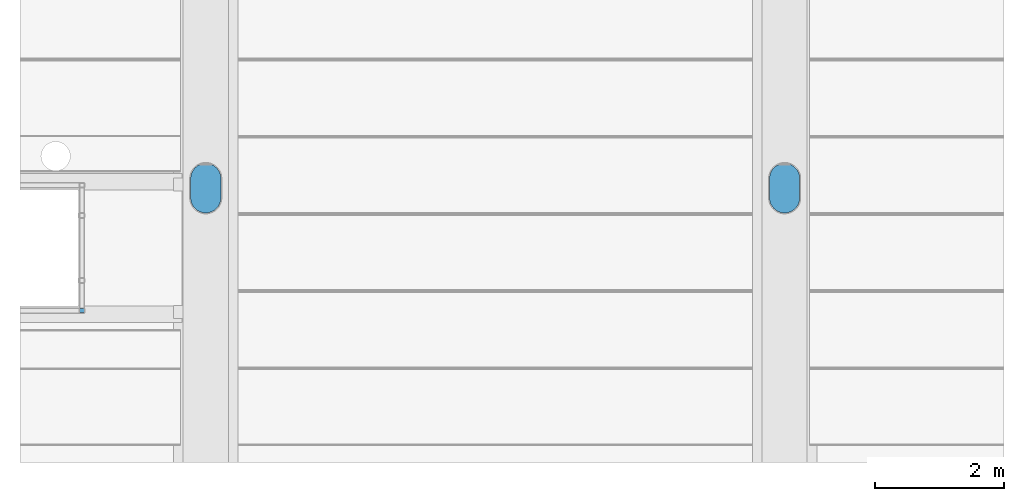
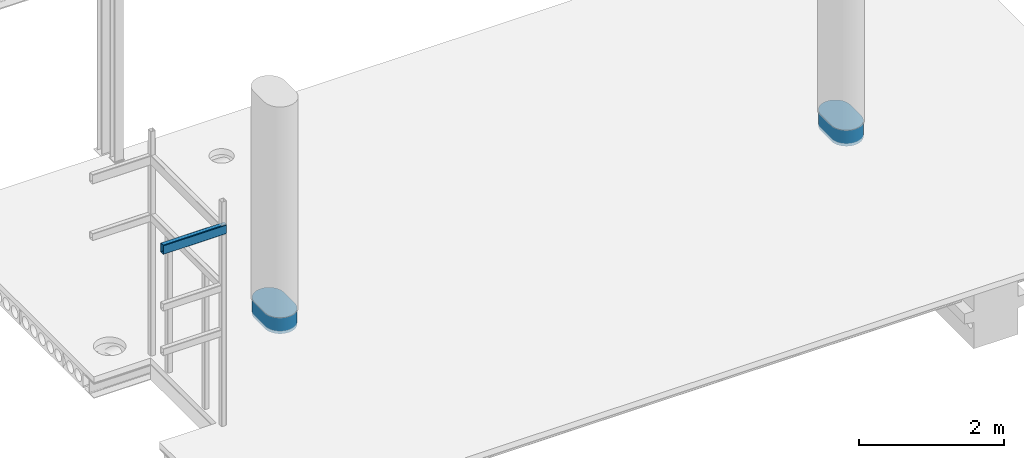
# One storey, part 19 of 34: 2 columns, 1 beam.
"""IFC2X3 building model written with IfcOpenShell, lengths in millimetres."""

from ifc_helpers import new_model, entity, si_unit, converted_unit, derived_unit, direction, frame, origin_with_axes, place, context, subcontext, project, spatial, faceted_brep, material, type_object, element, save


model = new_model("IFC2X3")

# Units and contexts
model_context = context("Model", 3, precision=0.01, world=frame((0.0, 4.29681676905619e-09, 0.0)), true_north=direction((4.01073788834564e-13, 1.0)))
plan_context = context("Plan", 3, precision=0.01, world=frame((0.0, 4.29681676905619e-09, 0.0)), true_north=direction((4.01073788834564e-13, 1.0)))
body_context = subcontext(model_context, "Body", "Model", "MODEL_VIEW")
ifc_project = project(units=[converted_unit("PLANEANGLEUNIT", "DEGREE", entity("IfcPositiveLengthMeasure", 0.0174532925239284), si_unit("PLANEANGLEUNIT", "RADIAN"), dimensions=[0, 0, 0, 0, 0, 0, 0]), si_unit("AREAUNIT", "SQUARE_METRE"), si_unit("LENGTHUNIT", "METRE", prefix="MILLI"), si_unit("MASSUNIT", "GRAM", prefix="KILO"), si_unit("POWERUNIT", "WATT"), si_unit("PRESSUREUNIT", "PASCAL"), si_unit("FORCEUNIT", "NEWTON", prefix="KILO"), si_unit("ELECTRICVOLTAGEUNIT", "VOLT"), si_unit("ELECTRICCURRENTUNIT", "AMPERE"), si_unit("THERMODYNAMICTEMPERATUREUNIT", "DEGREE_CELSIUS"), si_unit("TIMEUNIT", "SECOND"), si_unit("VOLUMEUNIT", "CUBIC_METRE"), derived_unit("LINEARVELOCITYUNIT", [(si_unit("LENGTHUNIT", "METRE"), 1), (si_unit("TIMEUNIT", "SECOND"), -1)]), derived_unit("VOLUMETRICFLOWRATEUNIT", [(si_unit("VOLUMEUNIT", "CUBIC_METRE"), 1), (si_unit("TIMEUNIT", "SECOND"), -1)]), derived_unit("THERMALTRANSMITTANCEUNIT", [(si_unit("POWERUNIT", "WATT"), 1), (si_unit("THERMODYNAMICTEMPERATUREUNIT", "KELVIN"), -1), (si_unit("AREAUNIT", "SQUARE_METRE"), -1)]), derived_unit("SOUNDPRESSUREUNIT", [(si_unit("PRESSUREUNIT", "PASCAL"), 1)])], contexts=[model_context, plan_context])

# Site, building, storey
site_placement = place(None, frame((0.0, -4.29681676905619e-09, 0.0), z_axis=(0.0, 0.0, 1.0), x_axis=(1.0, 0.0, 0.0)))
site = spatial("IfcSite", under=ifc_project, at=site_placement, Name="Gardermoen", CompositionType="ELEMENT")
building_placement = place(site_placement, frame((0.0, 4.29681676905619e-09, 0.0), z_axis=(0.0, 0.0, 1.0), x_axis=(1.0, 0.0, 0.0)))
building = spatial("IfcBuilding", under=site, at=building_placement, Name="TH", CompositionType="ELEMENT")
storey_placement = place(building_placement, origin_with_axes())
storey = spatial("IfcBuildingStorey", under=building, at=storey_placement, Name="F", CompositionType="ELEMENT", Elevation=0.0)

# Columns
ifc_material = material(Name="CONCRETE/C45/55")
column_type = type_object("IfcColumnType", Name="AAJOVAL470*770", PredefinedType="NOTDEFINED")
column_1_placement = place(storey_placement, frame((897999.999531, 480299.995625, 210080.0), z_axis=(0.0, 0.0, 1.0), x_axis=(0.0, 1.0, 0.0)))
element("IfcColumn", 1, at=column_1_placement, inside=storey, type_object=column_type, material=ifc_material, Name="PREFABSØYLE", ObjectType="AAJOVAL470*770", context=body_context, shape_type="Brep", body=[
    faceted_brep([(150.0, -235.0, 0.0), (169.929392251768, -234.153409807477, 0.0), (169.929392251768, -234.153409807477, 270.0), (150.0, -235.0, 270.0), (189.715192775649, -231.619738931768, 0.0), (189.715192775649, -231.619738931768, 270.0), (209.2148444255, -227.417242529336, 0.0), (209.2148444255, -227.417242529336, 270.0), (228.287851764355, -221.576199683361, 0.0), (228.287851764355, -221.576199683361, 270.0), (246.796793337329, -214.138695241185, 0.0), (246.796793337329, -214.138695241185, 270.0), (264.608311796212, -205.158316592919, 0.0), (264.608311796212, -205.158316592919, 270.0), (281.594074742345, -194.69976757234, 0.0), (281.594074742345, -194.69976757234, 270.0), (297.631699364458, -182.838402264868, 0.0), (297.631699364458, -182.838402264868, 270.0), (312.6056342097, -169.659682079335, 0.0), (312.6056342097, -169.659682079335, 270.0), (326.407991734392, -155.258559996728, 0.0), (326.407991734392, -155.258559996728, 270.0), (338.939325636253, -139.738796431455, 0.0), (338.939325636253, -139.738796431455, 270.0), (350.10934736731, -123.212211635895, 0.0), (350.10934736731, -123.212211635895, 270.0), (359.837576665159, -105.7978800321, 0.0), (359.837576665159, -105.7978800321, 270.0), (368.053921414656, -87.6212722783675, 0.0), (368.053921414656, -87.6212722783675, 270.0), (374.699182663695, -68.8133512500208, 0.0), (374.699182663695, -68.8133512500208, 270.0), (379.725481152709, -49.5096284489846, 0.0), (379.725481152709, -49.5096284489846, 270.0), (383.096602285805, -29.8491876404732, 0.0), (383.096602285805, -29.8491876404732, 270.0), (384.78825705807, -9.97368275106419, 0.0), (384.78825705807, -9.97368275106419, 270.0), (384.78825705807, 9.97368275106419, 0.0), (384.78825705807, 9.97368275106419, 270.0), (383.096602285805, 29.8491876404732, 0.0), (383.096602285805, 29.8491876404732, 270.0), (379.725481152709, 49.5096284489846, 0.0), (379.725481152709, 49.5096284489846, 270.0), (374.699182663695, 68.8133512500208, 0.0), (374.699182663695, 68.8133512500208, 270.0), (368.053921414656, 87.6212722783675, 0.0), (368.053921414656, 87.6212722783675, 270.0), (359.837576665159, 105.7978800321, 0.0), (359.837576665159, 105.7978800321, 270.0), (350.10934736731, 123.212211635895, 0.0), (350.10934736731, 123.212211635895, 270.0), (338.939325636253, 139.738796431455, 0.0), (338.939325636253, 139.738796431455, 270.0), (326.407991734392, 155.258559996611, 0.0), (326.407991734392, 155.258559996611, 270.0), (312.6056342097, 169.659682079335, 0.0), (312.6056342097, 169.659682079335, 270.0), (297.631699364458, 182.838402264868, 0.0), (297.631699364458, 182.838402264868, 270.0), (281.594074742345, 194.69976757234, 0.0), (281.594074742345, 194.69976757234, 270.0), (264.608311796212, 205.158316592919, 0.0), (264.608311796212, 205.158316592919, 270.0), (246.796793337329, 214.138695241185, 0.0), (246.796793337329, 214.138695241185, 270.0), (228.287851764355, 221.576199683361, 0.0), (228.287851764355, 221.576199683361, 270.0), (209.2148444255, 227.417242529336, 0.0), (209.2148444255, 227.417242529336, 270.0), (189.715192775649, 231.619738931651, 0.0), (189.715192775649, 231.619738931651, 270.0), (169.929392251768, 234.153409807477, 0.0), (169.929392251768, 234.153409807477, 270.0), (150.0, 235.0, 0.0), (150.0, 235.0, 270.0), (-150.0, 235.0, 0.0), (-150.0, 235.0, 270.0), (-169.929392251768, 234.153409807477, 0.0), (-169.929392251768, 234.153409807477, 270.0), (-189.715192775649, 231.619738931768, 0.0), (-189.715192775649, 231.619738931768, 270.0), (-209.2148444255, 227.417242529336, 0.0), (-209.2148444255, 227.417242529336, 270.0), (-228.287851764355, 221.576199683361, 0.0), (-228.287851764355, 221.576199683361, 270.0), (-246.796793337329, 214.138695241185, 0.0), (-246.796793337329, 214.138695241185, 270.0), (-264.608311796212, 205.158316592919, 0.0), (-264.608311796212, 205.158316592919, 270.0), (-281.594074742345, 194.69976757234, 0.0), (-281.594074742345, 194.69976757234, 270.0), (-297.631699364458, 182.838402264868, 0.0), (-297.631699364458, 182.838402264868, 270.0), (-312.6056342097, 169.659682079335, 0.0), (-312.6056342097, 169.659682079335, 270.0), (-326.407991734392, 155.258559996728, 0.0), (-326.407991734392, 155.258559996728, 270.0), (-338.939325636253, 139.738796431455, 0.0), (-338.939325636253, 139.738796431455, 270.0), (-350.10934736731, 123.212211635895, 0.0), (-350.10934736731, 123.212211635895, 270.0), (-359.837576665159, 105.7978800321, 0.0), (-359.837576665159, 105.7978800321, 270.0), (-368.053921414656, 87.6212722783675, 0.0), (-368.053921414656, 87.6212722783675, 270.0), (-374.699182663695, 68.8133512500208, 0.0), (-374.699182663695, 68.8133512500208, 270.0), (-379.725481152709, 49.5096284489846, 0.0), (-379.725481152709, 49.5096284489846, 270.0), (-383.096602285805, 29.8491876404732, 0.0), (-383.096602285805, 29.8491876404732, 270.0), (-384.78825705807, 9.97368275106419, 0.0), (-384.78825705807, 9.97368275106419, 270.0), (-384.78825705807, -9.97368275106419, 0.0), (-384.78825705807, -9.97368275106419, 270.0), (-383.096602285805, -29.8491876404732, 0.0), (-383.096602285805, -29.8491876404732, 270.0), (-379.725481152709, -49.5096284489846, 0.0), (-379.725481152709, -49.5096284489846, 270.0), (-374.699182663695, -68.8133512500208, 0.0), (-374.699182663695, -68.8133512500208, 270.0), (-368.053921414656, -87.6212722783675, 0.0), (-368.053921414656, -87.6212722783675, 270.0), (-359.837576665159, -105.7978800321, 0.0), (-359.837576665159, -105.7978800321, 270.0), (-350.10934736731, -123.212211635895, 0.0), (-350.10934736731, -123.212211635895, 270.0), (-338.939325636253, -139.738796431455, 0.0), (-338.939325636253, -139.738796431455, 270.0), (-326.407991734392, -155.258559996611, 0.0), (-326.407991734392, -155.258559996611, 270.0), (-312.6056342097, -169.659682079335, 0.0), (-312.6056342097, -169.659682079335, 270.0), (-297.631699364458, -182.838402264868, 0.0), (-297.631699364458, -182.838402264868, 270.0), (-281.594074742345, -194.69976757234, 0.0), (-281.594074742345, -194.69976757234, 270.0), (-264.608311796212, -205.158316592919, 0.0), (-264.608311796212, -205.158316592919, 270.0), (-246.796793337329, -214.138695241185, 0.0), (-246.796793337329, -214.138695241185, 270.0), (-228.287851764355, -221.576199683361, 0.0), (-228.287851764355, -221.576199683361, 270.0), (-209.2148444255, -227.417242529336, 0.0), (-209.2148444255, -227.417242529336, 270.0), (-189.715192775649, -231.619738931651, 0.0), (-189.715192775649, -231.619738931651, 270.0), (-169.929392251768, -234.153409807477, 0.0), (-169.929392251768, -234.153409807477, 270.0), (-150.0, -235.0, 0.0), (-150.0, -235.0, 270.0)], [[[0, 1, 2, 3]], [[1, 4, 5, 2]], [[4, 6, 7, 5]], [[6, 8, 9, 7]], [[8, 10, 11, 9]], [[10, 12, 13, 11]], [[12, 14, 15, 13]], [[14, 16, 17, 15]], [[16, 18, 19, 17]], [[18, 20, 21, 19]], [[20, 22, 23, 21]], [[22, 24, 25, 23]], [[24, 26, 27, 25]], [[26, 28, 29, 27]], [[28, 30, 31, 29]], [[30, 32, 33, 31]], [[32, 34, 35, 33]], [[34, 36, 37, 35]], [[36, 38, 39, 37]], [[38, 40, 41, 39]], [[40, 42, 43, 41]], [[42, 44, 45, 43]], [[44, 46, 47, 45]], [[46, 48, 49, 47]], [[48, 50, 51, 49]], [[50, 52, 53, 51]], [[52, 54, 55, 53]], [[54, 56, 57, 55]], [[56, 58, 59, 57]], [[58, 60, 61, 59]], [[60, 62, 63, 61]], [[62, 64, 65, 63]], [[64, 66, 67, 65]], [[66, 68, 69, 67]], [[68, 70, 71, 69]], [[70, 72, 73, 71]], [[72, 74, 75, 73]], [[74, 76, 77, 75]], [[76, 78, 79, 77]], [[78, 80, 81, 79]], [[80, 82, 83, 81]], [[82, 84, 85, 83]], [[84, 86, 87, 85]], [[86, 88, 89, 87]], [[88, 90, 91, 89]], [[90, 92, 93, 91]], [[92, 94, 95, 93]], [[94, 96, 97, 95]], [[96, 98, 99, 97]], [[98, 100, 101, 99]], [[100, 102, 103, 101]], [[102, 104, 105, 103]], [[104, 106, 107, 105]], [[106, 108, 109, 107]], [[108, 110, 111, 109]], [[110, 112, 113, 111]], [[112, 114, 115, 113]], [[114, 116, 117, 115]], [[116, 118, 119, 117]], [[118, 120, 121, 119]], [[120, 122, 123, 121]], [[122, 124, 125, 123]], [[124, 126, 127, 125]], [[126, 128, 129, 127]], [[128, 130, 131, 129]], [[130, 132, 133, 131]], [[132, 134, 135, 133]], [[134, 136, 137, 135]], [[136, 138, 139, 137]], [[138, 140, 141, 139]], [[140, 142, 143, 141]], [[142, 144, 145, 143]], [[144, 146, 147, 145]], [[146, 148, 149, 147]], [[148, 150, 151, 149]], [[150, 0, 3, 151]], [[5, 7, 9, 11, 13, 15, 17, 19, 21, 23, 25, 27, 29, 31, 33, 35, 37, 39, 41, 43, 45, 47, 49, 51, 53, 55, 57, 59, 61, 63, 65, 67, 69, 71, 73, 75, 77, 79, 81, 83, 85, 87, 89, 91, 93, 95, 97, 99, 101, 103, 105, 107, 109, 111, 113, 115, 117, 119, 121, 123, 125, 127, 129, 131, 133, 135, 137, 139, 141, 143, 145, 147, 149, 151, 3, 2]], [[150, 148, 146, 144, 142, 140, 138, 136, 134, 132, 130, 128, 126, 124, 122, 120, 118, 116, 114, 112, 110, 108, 106, 104, 102, 100, 98, 96, 94, 92, 90, 88, 86, 84, 82, 80, 78, 76, 74, 72, 70, 68, 66, 64, 62, 60, 58, 56, 54, 52, 50, 48, 46, 44, 42, 40, 38, 36, 34, 32, 30, 28, 26, 24, 22, 20, 18, 16, 14, 12, 10, 8, 6, 4, 1, 0]]]),
])
column_2_placement = place(storey_placement, frame((906999.999531, 480299.995625, 210080.0), z_axis=(0.0, 0.0, 1.0), x_axis=(0.0, 1.0, 0.0)))
element("IfcColumn", 2, at=column_2_placement, inside=storey, type_object=column_type, material=ifc_material, Name="PREFABSØYLE", ObjectType="AAJOVAL470*770", context=body_context, shape_type="Brep", body=[
    faceted_brep([(150.0, -235.0, 0.0), (169.929392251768, -234.153409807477, 0.0), (169.929392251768, -234.153409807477, 270.0), (150.0, -235.0, 270.0), (189.715192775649, -231.619738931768, 0.0), (189.715192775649, -231.619738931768, 270.0), (209.2148444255, -227.417242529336, 0.0), (209.2148444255, -227.417242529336, 270.0), (228.287851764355, -221.576199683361, 0.0), (228.287851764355, -221.576199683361, 270.0), (246.796793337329, -214.138695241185, 0.0), (246.796793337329, -214.138695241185, 270.0), (264.608311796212, -205.158316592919, 0.0), (264.608311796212, -205.158316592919, 270.0), (281.594074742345, -194.69976757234, 0.0), (281.594074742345, -194.69976757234, 270.0), (297.631699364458, -182.838402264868, 0.0), (297.631699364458, -182.838402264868, 270.0), (312.6056342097, -169.659682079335, 0.0), (312.6056342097, -169.659682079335, 270.0), (326.407991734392, -155.258559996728, 0.0), (326.407991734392, -155.258559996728, 270.0), (338.939325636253, -139.738796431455, 0.0), (338.939325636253, -139.738796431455, 270.0), (350.10934736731, -123.212211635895, 0.0), (350.10934736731, -123.212211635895, 270.0), (359.837576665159, -105.7978800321, 0.0), (359.837576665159, -105.7978800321, 270.0), (368.053921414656, -87.6212722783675, 0.0), (368.053921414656, -87.6212722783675, 270.0), (374.699182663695, -68.8133512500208, 0.0), (374.699182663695, -68.8133512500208, 270.0), (379.725481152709, -49.5096284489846, 0.0), (379.725481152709, -49.5096284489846, 270.0), (383.096602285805, -29.8491876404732, 0.0), (383.096602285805, -29.8491876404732, 270.0), (384.78825705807, -9.97368275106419, 0.0), (384.78825705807, -9.97368275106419, 270.0), (384.78825705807, 9.97368275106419, 0.0), (384.78825705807, 9.97368275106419, 270.0), (383.096602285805, 29.8491876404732, 0.0), (383.096602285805, 29.8491876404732, 270.0), (379.725481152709, 49.5096284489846, 0.0), (379.725481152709, 49.5096284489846, 270.0), (374.699182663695, 68.8133512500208, 0.0), (374.699182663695, 68.8133512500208, 270.0), (368.053921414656, 87.6212722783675, 0.0), (368.053921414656, 87.6212722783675, 270.0), (359.837576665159, 105.7978800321, 0.0), (359.837576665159, 105.7978800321, 270.0), (350.10934736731, 123.212211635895, 0.0), (350.10934736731, 123.212211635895, 270.0), (338.939325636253, 139.738796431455, 0.0), (338.939325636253, 139.738796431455, 270.0), (326.407991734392, 155.258559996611, 0.0), (326.407991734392, 155.258559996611, 270.0), (312.6056342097, 169.659682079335, 0.0), (312.6056342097, 169.659682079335, 270.0), (297.631699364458, 182.838402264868, 0.0), (297.631699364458, 182.838402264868, 270.0), (281.594074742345, 194.69976757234, 0.0), (281.594074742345, 194.69976757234, 270.0), (264.608311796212, 205.158316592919, 0.0), (264.608311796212, 205.158316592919, 270.0), (246.796793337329, 214.138695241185, 0.0), (246.796793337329, 214.138695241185, 270.0), (228.287851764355, 221.576199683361, 0.0), (228.287851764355, 221.576199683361, 270.0), (209.2148444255, 227.417242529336, 0.0), (209.2148444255, 227.417242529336, 270.0), (189.715192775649, 231.619738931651, 0.0), (189.715192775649, 231.619738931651, 270.0), (169.929392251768, 234.153409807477, 0.0), (169.929392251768, 234.153409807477, 270.0), (150.0, 235.0, 0.0), (150.0, 235.0, 270.0), (-150.0, 235.0, 0.0), (-150.0, 235.0, 270.0), (-169.929392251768, 234.153409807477, 0.0), (-169.929392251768, 234.153409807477, 270.0), (-189.715192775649, 231.619738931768, 0.0), (-189.715192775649, 231.619738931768, 270.0), (-209.2148444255, 227.417242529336, 0.0), (-209.2148444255, 227.417242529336, 270.0), (-228.287851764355, 221.576199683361, 0.0), (-228.287851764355, 221.576199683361, 270.0), (-246.796793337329, 214.138695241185, 0.0), (-246.796793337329, 214.138695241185, 270.0), (-264.608311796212, 205.158316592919, 0.0), (-264.608311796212, 205.158316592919, 270.0), (-281.594074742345, 194.69976757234, 0.0), (-281.594074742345, 194.69976757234, 270.0), (-297.631699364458, 182.838402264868, 0.0), (-297.631699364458, 182.838402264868, 270.0), (-312.6056342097, 169.659682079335, 0.0), (-312.6056342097, 169.659682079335, 270.0), (-326.407991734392, 155.258559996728, 0.0), (-326.407991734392, 155.258559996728, 270.0), (-338.939325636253, 139.738796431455, 0.0), (-338.939325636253, 139.738796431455, 270.0), (-350.10934736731, 123.212211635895, 0.0), (-350.10934736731, 123.212211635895, 270.0), (-359.837576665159, 105.7978800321, 0.0), (-359.837576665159, 105.7978800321, 270.0), (-368.053921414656, 87.6212722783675, 0.0), (-368.053921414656, 87.6212722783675, 270.0), (-374.699182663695, 68.8133512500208, 0.0), (-374.699182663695, 68.8133512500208, 270.0), (-379.725481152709, 49.5096284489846, 0.0), (-379.725481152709, 49.5096284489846, 270.0), (-383.096602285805, 29.8491876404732, 0.0), (-383.096602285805, 29.8491876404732, 270.0), (-384.78825705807, 9.97368275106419, 0.0), (-384.78825705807, 9.97368275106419, 270.0), (-384.78825705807, -9.97368275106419, 0.0), (-384.78825705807, -9.97368275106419, 270.0), (-383.096602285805, -29.8491876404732, 0.0), (-383.096602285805, -29.8491876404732, 270.0), (-379.725481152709, -49.5096284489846, 0.0), (-379.725481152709, -49.5096284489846, 270.0), (-374.699182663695, -68.8133512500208, 0.0), (-374.699182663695, -68.8133512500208, 270.0), (-368.053921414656, -87.6212722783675, 0.0), (-368.053921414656, -87.6212722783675, 270.0), (-359.837576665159, -105.7978800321, 0.0), (-359.837576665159, -105.7978800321, 270.0), (-350.10934736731, -123.212211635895, 0.0), (-350.10934736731, -123.212211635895, 270.0), (-338.939325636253, -139.738796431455, 0.0), (-338.939325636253, -139.738796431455, 270.0), (-326.407991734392, -155.258559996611, 0.0), (-326.407991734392, -155.258559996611, 270.0), (-312.6056342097, -169.659682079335, 0.0), (-312.6056342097, -169.659682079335, 270.0), (-297.631699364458, -182.838402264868, 0.0), (-297.631699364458, -182.838402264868, 270.0), (-281.594074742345, -194.69976757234, 0.0), (-281.594074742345, -194.69976757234, 270.0), (-264.608311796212, -205.158316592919, 0.0), (-264.608311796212, -205.158316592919, 270.0), (-246.796793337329, -214.138695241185, 0.0), (-246.796793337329, -214.138695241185, 270.0), (-228.287851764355, -221.576199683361, 0.0), (-228.287851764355, -221.576199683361, 270.0), (-209.2148444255, -227.417242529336, 0.0), (-209.2148444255, -227.417242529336, 270.0), (-189.715192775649, -231.619738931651, 0.0), (-189.715192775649, -231.619738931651, 270.0), (-169.929392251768, -234.153409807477, 0.0), (-169.929392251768, -234.153409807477, 270.0), (-150.0, -235.0, 0.0), (-150.0, -235.0, 270.0)], [[[0, 1, 2, 3]], [[1, 4, 5, 2]], [[4, 6, 7, 5]], [[6, 8, 9, 7]], [[8, 10, 11, 9]], [[10, 12, 13, 11]], [[12, 14, 15, 13]], [[14, 16, 17, 15]], [[16, 18, 19, 17]], [[18, 20, 21, 19]], [[20, 22, 23, 21]], [[22, 24, 25, 23]], [[24, 26, 27, 25]], [[26, 28, 29, 27]], [[28, 30, 31, 29]], [[30, 32, 33, 31]], [[32, 34, 35, 33]], [[34, 36, 37, 35]], [[36, 38, 39, 37]], [[38, 40, 41, 39]], [[40, 42, 43, 41]], [[42, 44, 45, 43]], [[44, 46, 47, 45]], [[46, 48, 49, 47]], [[48, 50, 51, 49]], [[50, 52, 53, 51]], [[52, 54, 55, 53]], [[54, 56, 57, 55]], [[56, 58, 59, 57]], [[58, 60, 61, 59]], [[60, 62, 63, 61]], [[62, 64, 65, 63]], [[64, 66, 67, 65]], [[66, 68, 69, 67]], [[68, 70, 71, 69]], [[70, 72, 73, 71]], [[72, 74, 75, 73]], [[74, 76, 77, 75]], [[76, 78, 79, 77]], [[78, 80, 81, 79]], [[80, 82, 83, 81]], [[82, 84, 85, 83]], [[84, 86, 87, 85]], [[86, 88, 89, 87]], [[88, 90, 91, 89]], [[90, 92, 93, 91]], [[92, 94, 95, 93]], [[94, 96, 97, 95]], [[96, 98, 99, 97]], [[98, 100, 101, 99]], [[100, 102, 103, 101]], [[102, 104, 105, 103]], [[104, 106, 107, 105]], [[106, 108, 109, 107]], [[108, 110, 111, 109]], [[110, 112, 113, 111]], [[112, 114, 115, 113]], [[114, 116, 117, 115]], [[116, 118, 119, 117]], [[118, 120, 121, 119]], [[120, 122, 123, 121]], [[122, 124, 125, 123]], [[124, 126, 127, 125]], [[126, 128, 129, 127]], [[128, 130, 131, 129]], [[130, 132, 133, 131]], [[132, 134, 135, 133]], [[134, 136, 137, 135]], [[136, 138, 139, 137]], [[138, 140, 141, 139]], [[140, 142, 143, 141]], [[142, 144, 145, 143]], [[144, 146, 147, 145]], [[146, 148, 149, 147]], [[148, 150, 151, 149]], [[150, 0, 3, 151]], [[5, 7, 9, 11, 13, 15, 17, 19, 21, 23, 25, 27, 29, 31, 33, 35, 37, 39, 41, 43, 45, 47, 49, 51, 53, 55, 57, 59, 61, 63, 65, 67, 69, 71, 73, 75, 77, 79, 81, 83, 85, 87, 89, 91, 93, 95, 97, 99, 101, 103, 105, 107, 109, 111, 113, 115, 117, 119, 121, 123, 125, 127, 129, 131, 133, 135, 137, 139, 141, 143, 145, 147, 149, 151, 3, 2]], [[150, 148, 146, 144, 142, 140, 138, 136, 134, 132, 130, 128, 126, 124, 122, 120, 118, 116, 114, 112, 110, 108, 106, 104, 102, 100, 98, 96, 94, 92, 90, 88, 86, 84, 82, 80, 78, 76, 74, 72, 70, 68, 66, 64, 62, 60, 58, 56, 54, 52, 50, 48, 46, 44, 42, 40, 38, 36, 34, 32, 30, 28, 26, 24, 22, 20, 18, 16, 14, 12, 10, 8, 6, 4, 1, 0]]]),
])

# Beam
beam_type = type_object("IfcBeamType", Name="RHS160*80*6.3", PredefinedType="NOTDEFINED")
beam_placement = place(storey_placement, frame((890884.999766, 478395.0, 213420.0), z_axis=(0.0, 0.0, 1.0), x_axis=(1.0, 0.0, 0.0)))
element("IfcBeam", 3, at=beam_placement, inside=storey, type_object=beam_type, Name="STÅLBJELKE", ObjectType="RHS160*80*6.3", context=body_context, shape_type="Brep", body=[
    faceted_brep([(4226.90640257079, -24.19999981, -73.699999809), (4226.90640257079, 24.19999981, -73.699999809), (5230.0, 24.19999981, -73.699999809), (5230.0, -24.19999981, -73.699999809), (4226.90640257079, 26.0533578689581, -73.5174599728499), (5230.0, 26.0533578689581, -73.5174599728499), (4226.90640257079, 27.8354924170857, -72.9768553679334), (5230.0, 27.8354924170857, -72.9768553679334), (4226.90640257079, 29.4779170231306, -72.0989611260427), (5230.0, 29.4779170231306, -72.0989611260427), (4226.90640257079, 30.9175142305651, -70.9175142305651), (5230.0, 30.9175142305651, -70.9175142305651), (4226.90640257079, 32.0989611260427, -69.4779170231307), (5230.0, 32.0989611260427, -69.4779170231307), (4226.90640257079, 32.9768553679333, -67.8354924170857), (5230.0, 32.9768553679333, -67.8354924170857), (4226.90640257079, 33.5174599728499, -66.0533578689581), (5230.0, 33.5174599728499, -66.0533578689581), (4226.90640257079, 33.699999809, -64.19999981), (5230.0, 33.699999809, -64.19999981), (4226.90640257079, 33.699999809, 64.19999981), (5230.0, 33.699999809, 64.19999981), (4226.90640257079, 33.5174599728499, 66.0533578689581), (5230.0, 33.5174599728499, 66.0533578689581), (4226.90640257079, 32.9768553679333, 67.8354924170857), (5230.0, 32.9768553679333, 67.8354924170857), (4226.90640257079, 32.0989611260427, 69.4779170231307), (5230.0, 32.0989611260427, 69.4779170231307), (4226.90640257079, 30.9175142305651, 70.9175142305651), (5230.0, 30.9175142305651, 70.9175142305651), (4226.90640257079, 29.4779170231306, 72.0989611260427), (5230.0, 29.4779170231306, 72.0989611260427), (4226.90640257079, 27.8354924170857, 72.9768553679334), (5230.0, 27.8354924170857, 72.9768553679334), (4226.90640257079, 26.0533578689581, 73.5174599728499), (5230.0, 26.0533578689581, 73.5174599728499), (4226.90640257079, 24.19999981, 73.699999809), (5230.0, 24.19999981, 73.699999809), (4226.90640257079, -24.19999981, 73.699999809), (5230.0, -24.19999981, 73.699999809), (4226.90640257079, -26.0533578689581, 73.5174599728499), (5230.0, -26.0533578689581, 73.5174599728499), (4226.90640257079, -27.8354924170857, 72.9768553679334), (5230.0, -27.8354924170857, 72.9768553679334), (4226.90640257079, -29.4779170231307, 72.0989611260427), (5230.0, -29.4779170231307, 72.0989611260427), (4226.90640257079, -30.9175142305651, 70.9175142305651), (5230.0, -30.9175142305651, 70.9175142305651), (4226.90640257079, -32.0989611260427, 69.4779170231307), (5230.0, -32.0989611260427, 69.4779170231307), (4226.90640257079, -32.9768553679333, 67.8354924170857), (5230.0, -32.9768553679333, 67.8354924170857), (4226.90640257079, -33.5174599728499, 66.0533578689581), (5230.0, -33.5174599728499, 66.0533578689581), (4226.90640257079, -33.699999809, 64.19999981), (5230.0, -33.699999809, 64.19999981), (4226.90640257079, -33.699999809, -64.19999981), (5230.0, -33.699999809, -64.19999981), (4226.90640257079, -33.5174599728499, -66.0533578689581), (5230.0, -33.5174599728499, -66.0533578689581), (4226.90640257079, -32.9768553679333, -67.8354924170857), (5230.0, -32.9768553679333, -67.8354924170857), (4226.90640257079, -32.0989611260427, -69.4779170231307), (5230.0, -32.0989611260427, -69.4779170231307), (4226.90640257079, -30.9175142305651, -70.9175142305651), (5230.0, -30.9175142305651, -70.9175142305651), (4226.90640257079, -29.4779170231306, -72.0989611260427), (5230.0, -29.4779170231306, -72.0989611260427), (4226.90640257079, -27.8354924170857, -72.9768553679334), (5230.0, -27.8354924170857, -72.9768553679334), (4226.90640257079, -26.0533578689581, -73.5174599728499), (5230.0, -26.0533578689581, -73.5174599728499), (4226.90640257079, 24.19999981, -80.0), (4226.90640257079, -24.19999981, -80.0), (5230.0, -24.19999981, -80.0), (5230.0, 24.19999981, -80.0), (4226.90640257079, -27.282426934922, -79.6964074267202), (5230.0, -27.282426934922, -79.6964074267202), (4226.90640257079, -30.2463981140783, -78.7972965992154), (5230.0, -30.2463981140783, -78.7972965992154), (4226.90640257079, -32.9780095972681, -77.3372198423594), (5230.0, -32.9780095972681, -77.3372198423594), (4226.90640257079, -35.3722870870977, -75.3722870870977), (5230.0, -35.3722870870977, -75.3722870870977), (4226.90640257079, -37.3372198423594, -72.9780095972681), (5230.0, -37.3372198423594, -72.9780095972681), (4226.90640257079, -38.7972965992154, -70.2463981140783), (5230.0, -38.7972965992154, -70.2463981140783), (4226.90640257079, -39.6964074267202, -67.282426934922), (5230.0, -39.6964074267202, -67.282426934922), (4226.90640257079, -40.0, -64.19999981), (5230.0, -40.0, -64.19999981), (4226.90640257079, -40.0, 64.19999981), (5230.0, -40.0, 64.19999981), (4226.90640257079, -39.6964074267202, 67.282426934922), (5230.0, -39.6964074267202, 67.282426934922), (4226.90640257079, -38.7972965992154, 70.2463981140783), (5230.0, -38.7972965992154, 70.2463981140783), (4226.90640257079, -37.3372198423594, 72.9780095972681), (5230.0, -37.3372198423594, 72.9780095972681), (4226.90640257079, -35.3722870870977, 75.3722870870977), (5230.0, -35.3722870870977, 75.3722870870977), (4226.90640257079, -32.9780095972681, 77.3372198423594), (5230.0, -32.9780095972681, 77.3372198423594), (4226.90640257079, -30.2463981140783, 78.7972965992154), (5230.0, -30.2463981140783, 78.7972965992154), (4226.90640257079, -27.282426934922, 79.6964074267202), (5230.0, -27.282426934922, 79.6964074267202), (4226.90640257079, -24.19999981, 80.0), (5230.0, -24.19999981, 80.0), (4226.90640257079, 24.19999981, 80.0), (5230.0, 24.19999981, 80.0), (4226.90640257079, 27.282426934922, 79.6964074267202), (5230.0, 27.282426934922, 79.6964074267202), (4226.90640257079, 30.2463981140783, 78.7972965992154), (5230.0, 30.2463981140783, 78.7972965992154), (4226.90640257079, 32.9780095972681, 77.3372198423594), (5230.0, 32.9780095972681, 77.3372198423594), (4226.90640257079, 35.3722870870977, 75.3722870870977), (5230.0, 35.3722870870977, 75.3722870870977), (4226.90640257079, 37.3372198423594, 72.9780095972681), (5230.0, 37.3372198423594, 72.9780095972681), (4226.90640257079, 38.7972965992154, 70.2463981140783), (5230.0, 38.7972965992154, 70.2463981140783), (4226.90640257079, 39.6964074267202, 67.282426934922), (5230.0, 39.6964074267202, 67.282426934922), (4226.90640257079, 40.0, 64.19999981), (5230.0, 40.0, 64.19999981), (4226.90640257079, 40.0, -64.19999981), (5230.0, 40.0, -64.19999981), (4226.90640257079, 39.6964074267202, -67.282426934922), (5230.0, 39.6964074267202, -67.282426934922), (4226.90640257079, 38.7972965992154, -70.2463981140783), (5230.0, 38.7972965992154, -70.2463981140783), (4226.90640257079, 37.3372198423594, -72.9780095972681), (5230.0, 37.3372198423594, -72.9780095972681), (4226.90640257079, 35.3722870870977, -75.3722870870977), (5230.0, 35.3722870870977, -75.3722870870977), (4226.90640257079, 32.9780095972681, -77.3372198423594), (5230.0, 32.9780095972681, -77.3372198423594), (4226.90640257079, 30.2463981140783, -78.7972965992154), (5230.0, 30.2463981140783, -78.7972965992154), (4226.90640257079, 27.282426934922, -79.6964074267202), (5230.0, 27.282426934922, -79.6964074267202)], [[[0, 1, 2, 3]], [[1, 4, 5, 2]], [[4, 6, 7, 5]], [[6, 8, 9, 7]], [[8, 10, 11, 9]], [[10, 12, 13, 11]], [[12, 14, 15, 13]], [[14, 16, 17, 15]], [[16, 18, 19, 17]], [[18, 20, 21, 19]], [[20, 22, 23, 21]], [[22, 24, 25, 23]], [[24, 26, 27, 25]], [[26, 28, 29, 27]], [[28, 30, 31, 29]], [[30, 32, 33, 31]], [[32, 34, 35, 33]], [[34, 36, 37, 35]], [[36, 38, 39, 37]], [[38, 40, 41, 39]], [[40, 42, 43, 41]], [[42, 44, 45, 43]], [[44, 46, 47, 45]], [[46, 48, 49, 47]], [[48, 50, 51, 49]], [[50, 52, 53, 51]], [[52, 54, 55, 53]], [[54, 56, 57, 55]], [[56, 58, 59, 57]], [[58, 60, 61, 59]], [[60, 62, 63, 61]], [[62, 64, 65, 63]], [[64, 66, 67, 65]], [[66, 68, 69, 67]], [[68, 70, 71, 69]], [[70, 0, 3, 71]], [[72, 73, 74, 75]], [[73, 76, 77, 74]], [[76, 78, 79, 77]], [[78, 80, 81, 79]], [[80, 82, 83, 81]], [[82, 84, 85, 83]], [[84, 86, 87, 85]], [[86, 88, 89, 87]], [[88, 90, 91, 89]], [[90, 92, 93, 91]], [[92, 94, 95, 93]], [[94, 96, 97, 95]], [[96, 98, 99, 97]], [[98, 100, 101, 99]], [[100, 102, 103, 101]], [[102, 104, 105, 103]], [[104, 106, 107, 105]], [[106, 108, 109, 107]], [[108, 110, 111, 109]], [[110, 112, 113, 111]], [[112, 114, 115, 113]], [[114, 116, 117, 115]], [[116, 118, 119, 117]], [[118, 120, 121, 119]], [[120, 122, 123, 121]], [[122, 124, 125, 123]], [[124, 126, 127, 125]], [[126, 128, 129, 127]], [[128, 130, 131, 129]], [[130, 132, 133, 131]], [[132, 134, 135, 133]], [[134, 136, 137, 135]], [[136, 138, 139, 137]], [[138, 140, 141, 139]], [[140, 142, 143, 141]], [[142, 72, 75, 143]], [[75, 74, 77, 79, 81, 83, 85, 87, 89, 91, 93, 95, 97, 99, 101, 103, 105, 107, 109, 111, 113, 115, 117, 119, 121, 123, 125, 127, 129, 131, 133, 135, 137, 139, 141, 143], [3, 2, 5, 7, 9, 11, 13, 15, 17, 19, 21, 23, 25, 27, 29, 31, 33, 35, 37, 39, 41, 43, 45, 47, 49, 51, 53, 55, 57, 59, 61, 63, 65, 67, 69, 71]], [[142, 140, 138, 136, 134, 132, 130, 128, 126, 124, 122, 120, 118, 116, 114, 112, 110, 108, 106, 104, 102, 100, 98, 96, 94, 92, 90, 88, 86, 84, 82, 80, 78, 76, 73, 72], [70, 68, 66, 64, 62, 60, 58, 56, 54, 52, 50, 48, 46, 44, 42, 40, 38, 36, 34, 32, 30, 28, 26, 24, 22, 20, 18, 16, 14, 12, 10, 8, 6, 4, 1, 0]]], orient=[[False], [False], [False], [False], [False], [False], [False], [False], [False], [False], [False], [False], [False], [False], [False], [False], [False], [False], [False], [False], [False], [False], [False], [False], [False], [False], [False], [False], [False], [False], [False], [False], [False], [False], [False], [False], [False], [False], [False], [False], [False], [False], [False], [False], [False], [False], [False], [False], [False], [False], [False], [False], [False], [False], [False], [False], [False], [False], [False], [False], [False], [False], [False], [False], [False], [False], [False], [False], [False], [False], [False], [False], [False, False], [False, False]]),
])

save(model, "model.ifc")
